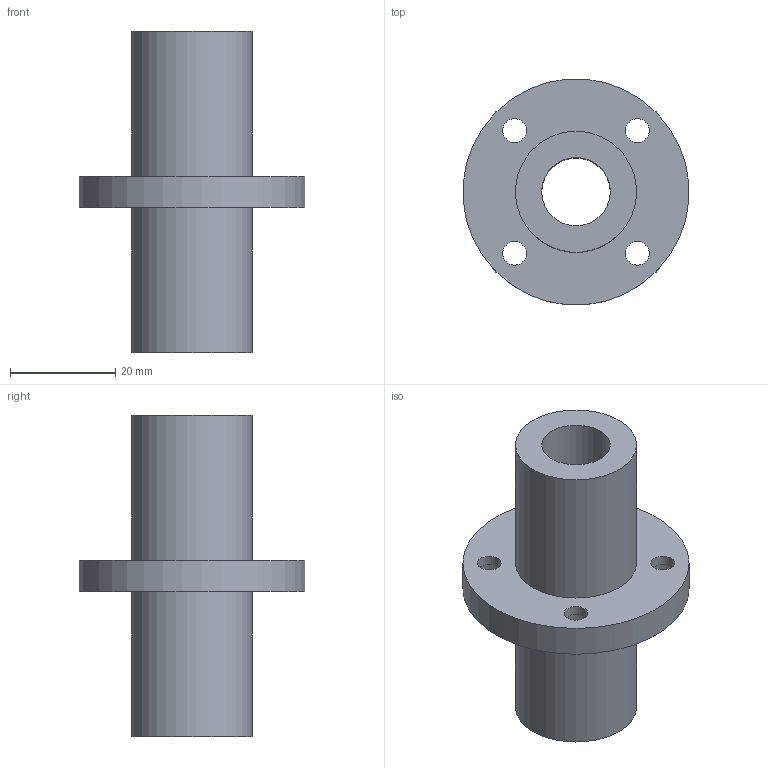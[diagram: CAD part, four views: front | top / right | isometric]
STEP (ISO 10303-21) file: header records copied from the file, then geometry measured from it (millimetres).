
FILE_DESCRIPTION(/* description */ (''),/* implementation_level */ '2;1');
FILE_NAME(/* name */ 'LMFM13LUU',/* time_stamp */ '2019-07-03T11:00:48+02:00',/* author */ ('VĂ©gh MĂˇtĂ©'),/* organization */ ('Bearing Kft'),/* preprocessor_version */ 'ST-DEVELOPER v16.7',/* originating_system */ 'DEX',/* authorisation */ $);
FILE_SCHEMA (('AUTOMOTIVE_DESIGN {1 0 10303 214 3 1 1}'));
Length unit declared in the file: millimetre
Products named in the file (1): LMFM13LUU
Bounding box: 42.84 x 42.84 x 61 mm (x, y, z)
Volume: 22620.4 mm3; surface area: 10298.6 mm2
Topology: 1 solids, 1 shells, 343 faces, 868 edges, 580 vertices
Faces by surface type: plane 268, bspline 60, cylinder 15
Full cylindrical faces by diameter (mm): 4.5 x4, 7.5 x4, 13 x1, 23 x2, 43 x1
Entity records: 12811 total; most frequent: CARTESIAN_POINT 4929, ORIENTED_EDGE 1702, DIRECTION 1329, EDGE_CURVE 851, LINE 701, VECTOR 701, VERTEX_POINT 576, EDGE_LOOP 419
